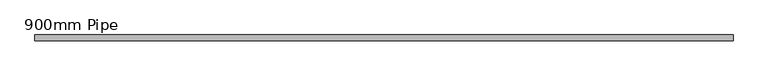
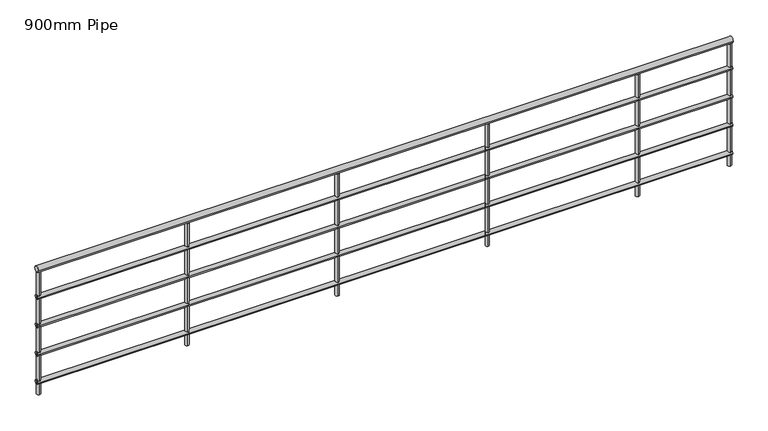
"""IFC4 building model written with IfcOpenShell, lengths in millimetres: railing geometry, 900mm Pipe."""

from ifc_helpers import new_model, si_unit, point, frame, frame_2d, origin, place, context, project, spatial, circle_curve, trimmed, segment, composite_curve, outline, extrude, source, transform, mapped, element, save


def railing_900mm_pipe_c553a1ad(model_context):
    return source(origin(), model_context, "Body", "SweptSolid", [
        extrude(outline(composite_curve([segment(trimmed(circle_curve(frame_2d((-4225.1973194, 8880.0)), 20.0), [point((-4245.1973194, 8880.0))], [point((-4205.1973194, 8880.0))], False, "CARTESIAN"), True, "CONTINUOUS"), segment(trimmed(circle_curve(frame_2d((-4225.1973194, 8880.0)), 20.0), [point((-4205.1973194, 8880.0))], [point((-4245.1973194, 8880.0))], False, "CARTESIAN"), True, "CONTINUOUS")], self_intersect=False)), frame((-4155.3077176, 0.0, 0.0), z_axis=(1.0, 0.0, 0.0), x_axis=(0.0, 1.0, 0.0)), (0.0, 0.0, 1.0), 4625.0),
        extrude(outline(composite_curve([segment(trimmed(circle_curve(frame_2d((-4225.1973194, 8685.0)), 15.0), [point((-4240.1973194, 8685.0))], [point((-4210.1973194, 8685.0))], False, "CARTESIAN"), True, "CONTINUOUS"), segment(trimmed(circle_curve(frame_2d((-4225.1973194, 8685.0)), 15.0), [point((-4210.1973194, 8685.0))], [point((-4240.1973194, 8685.0))], False, "CARTESIAN"), True, "CONTINUOUS")], self_intersect=False)), frame((-4155.3077176, 0.0, 0.0), z_axis=(1.0, 0.0, 0.0), x_axis=(0.0, 1.0, 0.0)), (0.0, 0.0, 1.0), 4625.0),
        extrude(outline(composite_curve([segment(trimmed(circle_curve(frame_2d((-4225.1973194, 8485.0)), 15.0), [point((-4240.1973194, 8485.0))], [point((-4210.1973194, 8485.0))], False, "CARTESIAN"), True, "CONTINUOUS"), segment(trimmed(circle_curve(frame_2d((-4225.1973194, 8485.0)), 15.0), [point((-4210.1973194, 8485.0))], [point((-4240.1973194, 8485.0))], False, "CARTESIAN"), True, "CONTINUOUS")], self_intersect=False)), frame((-4155.3077176, 0.0, 0.0), z_axis=(1.0, 0.0, 0.0), x_axis=(0.0, 1.0, 0.0)), (0.0, 0.0, 1.0), 4625.0),
        extrude(outline(composite_curve([segment(trimmed(circle_curve(frame_2d((-4225.1973194, 8285.0)), 15.0), [point((-4240.1973194, 8285.0))], [point((-4210.1973194, 8285.0))], False, "CARTESIAN"), True, "CONTINUOUS"), segment(trimmed(circle_curve(frame_2d((-4225.1973194, 8285.0)), 15.0), [point((-4210.1973194, 8285.0))], [point((-4240.1973194, 8285.0))], False, "CARTESIAN"), True, "CONTINUOUS")], self_intersect=False)), frame((-4155.3077176, 0.0, 0.0), z_axis=(1.0, 0.0, 0.0), x_axis=(0.0, 1.0, 0.0)), (0.0, 0.0, 1.0), 4625.0),
        extrude(outline(composite_curve([segment(trimmed(circle_curve(frame_2d((-4225.1973194, 8085.0)), 15.0), [point((-4240.1973194, 8085.0))], [point((-4210.1973194, 8085.0))], False, "CARTESIAN"), True, "CONTINUOUS"), segment(trimmed(circle_curve(frame_2d((-4225.1973194, 8085.0)), 15.0), [point((-4210.1973194, 8085.0))], [point((-4240.1973194, 8085.0))], False, "CARTESIAN"), True, "CONTINUOUS")], self_intersect=False)), frame((-4155.3077176, 0.0, 0.0), z_axis=(1.0, 0.0, 0.0), x_axis=(0.0, 1.0, 0.0)), (0.0, 0.0, 1.0), 4625.0),
        extrude(outline(composite_curve([segment(trimmed(circle_curve(frame_2d((-155.3077176, -4225.1973194)), 12.5), [point((-155.3077176, -4237.6973194))], [point((-155.3077176, -4212.6973194))], False, "CARTESIAN"), True, "CONTINUOUS"), segment(trimmed(circle_curve(frame_2d((-155.3077176, -4225.1973194)), 12.5), [point((-155.3077176, -4212.6973194))], [point((-155.3077176, -4237.6973194))], False, "CARTESIAN"), True, "CONTINUOUS")], self_intersect=False)), frame((0.0, 0.0, 8000.0), z_axis=(0.0, 0.0, 1.0), x_axis=(1.0, 0.0, 0.0)), (0.0, 0.0, 1.0), 860.0),
        extrude(outline(composite_curve([segment(trimmed(circle_curve(frame_2d((-1155.3077176, -4225.1973194)), 12.5), [point((-1155.3077176, -4237.6973194))], [point((-1155.3077176, -4212.6973194))], False, "CARTESIAN"), True, "CONTINUOUS"), segment(trimmed(circle_curve(frame_2d((-1155.3077176, -4225.1973194)), 12.5), [point((-1155.3077176, -4212.6973194))], [point((-1155.3077176, -4237.6973194))], False, "CARTESIAN"), True, "CONTINUOUS")], self_intersect=False)), frame((0.0, 0.0, 8000.0), z_axis=(0.0, 0.0, 1.0), x_axis=(1.0, 0.0, 0.0)), (0.0, 0.0, 1.0), 860.0),
        extrude(outline(composite_curve([segment(trimmed(circle_curve(frame_2d((-2155.3077176, -4225.1973194)), 12.5), [point((-2155.3077176, -4237.6973194))], [point((-2155.3077176, -4212.6973194))], False, "CARTESIAN"), True, "CONTINUOUS"), segment(trimmed(circle_curve(frame_2d((-2155.3077176, -4225.1973194)), 12.5), [point((-2155.3077176, -4212.6973194))], [point((-2155.3077176, -4237.6973194))], False, "CARTESIAN"), True, "CONTINUOUS")], self_intersect=False)), frame((0.0, 0.0, 8000.0), z_axis=(0.0, 0.0, 1.0), x_axis=(1.0, 0.0, 0.0)), (0.0, 0.0, 1.0), 860.0),
        extrude(outline(composite_curve([segment(trimmed(circle_curve(frame_2d((-3155.3077176, -4225.1973194)), 12.5), [point((-3155.3077176, -4237.6973194))], [point((-3155.3077176, -4212.6973194))], False, "CARTESIAN"), True, "CONTINUOUS"), segment(trimmed(circle_curve(frame_2d((-3155.3077176, -4225.1973194)), 12.5), [point((-3155.3077176, -4212.6973194))], [point((-3155.3077176, -4237.6973194))], False, "CARTESIAN"), True, "CONTINUOUS")], self_intersect=False)), frame((0.0, 0.0, 8000.0), z_axis=(0.0, 0.0, 1.0), x_axis=(1.0, 0.0, 0.0)), (0.0, 0.0, 1.0), 860.0),
        extrude(outline(composite_curve([segment(trimmed(circle_curve(frame_2d((457.1922824, -4225.1973194)), 12.5), [point((457.1922824, -4237.6973194))], [point((457.1922824, -4212.6973194))], False, "CARTESIAN"), True, "CONTINUOUS"), segment(trimmed(circle_curve(frame_2d((457.1922824, -4225.1973194)), 12.5), [point((457.1922824, -4212.6973194))], [point((457.1922824, -4237.6973194))], False, "CARTESIAN"), True, "CONTINUOUS")], self_intersect=False)), frame((0.0, 0.0, 8000.0), z_axis=(0.0, 0.0, 1.0), x_axis=(1.0, 0.0, 0.0)), (0.0, 0.0, 1.0), 860.0),
        extrude(outline(composite_curve([segment(trimmed(circle_curve(frame_2d((-4142.8077176, -4225.1973194)), 12.5), [point((-4142.8077176, -4237.6973194))], [point((-4142.8077176, -4212.6973194))], False, "CARTESIAN"), True, "CONTINUOUS"), segment(trimmed(circle_curve(frame_2d((-4142.8077176, -4225.1973194)), 12.5), [point((-4142.8077176, -4212.6973194))], [point((-4142.8077176, -4237.6973194))], False, "CARTESIAN"), True, "CONTINUOUS")], self_intersect=False)), frame((0.0, 0.0, 8000.0), z_axis=(0.0, 0.0, 1.0), x_axis=(1.0, 0.0, 0.0)), (0.0, 0.0, 1.0), 860.0),
    ])


if __name__ == "__main__":
    model = new_model("IFC4")
    model_context = context("Model", 3, world=origin())
    ifc_project = project(units=[si_unit("LENGTHUNIT", "METRE", prefix="MILLI")], contexts=[model_context])
    site = spatial("IfcSite", under=ifc_project)
    building = spatial("IfcBuilding", under=site)
    placement = place(None, origin())
    railing_900mm_pipe_shape = railing_900mm_pipe_c553a1ad(model_context)
    element("IfcRailing", 1, ObjectType="900mm Pipe", at=placement, inside=building, context=model_context, shape_type="MappedRepresentation", body=[
        mapped(railing_900mm_pipe_shape, transform((0.0, 0.0, 0.0), x_axis=(1.0, 0.0, 0.0), y_axis=(0.0, 1.0, 0.0), z_axis=(0.0, 0.0, 1.0))),
    ])
    save(model, "model.ifc")
